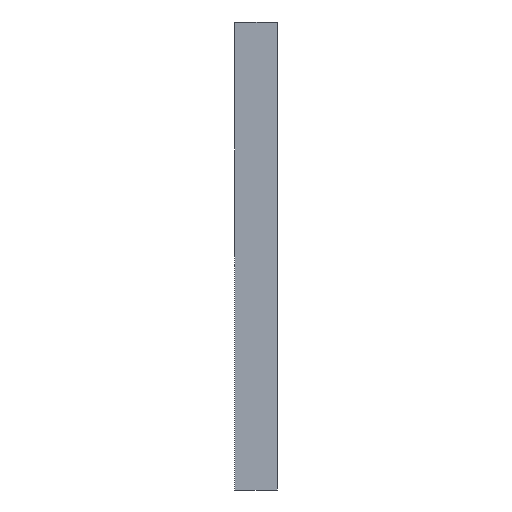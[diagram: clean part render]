
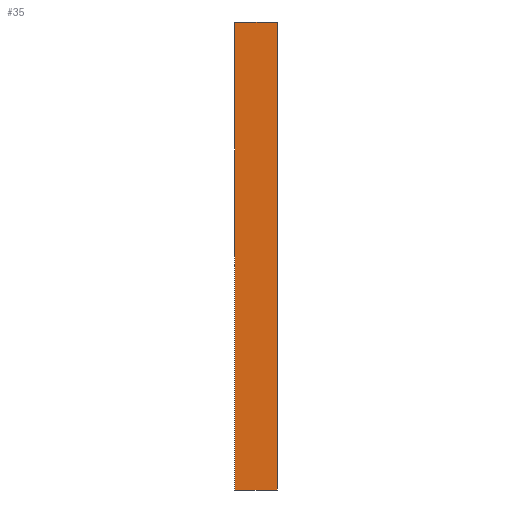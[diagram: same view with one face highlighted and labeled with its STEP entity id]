
A CAD part, left-side view. The second image highlights one B-rep face of the part: STEP entity #35.
In plain terms, the highlighted planar face has unit normal (-1, 0, 0).
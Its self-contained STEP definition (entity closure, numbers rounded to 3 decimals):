
#35 = ADVANCED_FACE('',(#36),#50,.T.);
#36 = FACE_BOUND('',#37,.T.);
#37 = EDGE_LOOP('',(#38,#73,#101,#129));
#38 = ORIENTED_EDGE('',*,*,#39,.T.);
#39 = EDGE_CURVE('',#40,#42,#44,.T.);
#40 = VERTEX_POINT('',#41);
#41 = CARTESIAN_POINT('',(-18.4,-10.9,0.));
#42 = VERTEX_POINT('',#43);
#43 = CARTESIAN_POINT('',(-18.4,-10.9,2.));
#44 = SURFACE_CURVE('',#45,(#49,#61),.PCURVE_S1.);
#45 = LINE('',#46,#47);
#46 = CARTESIAN_POINT('',(-18.4,-10.9,0.));
#47 = VECTOR('',#48,1.);
#48 = DIRECTION('',(0.,0.,1.));
#49 = PCURVE('',#50,#55);
#50 = PLANE('',#51);
#51 = AXIS2_PLACEMENT_3D('',#52,#53,#54);
#52 = CARTESIAN_POINT('',(-18.4,-10.9,0.));
#53 = DIRECTION('',(-1.,-0.,0.));
#54 = DIRECTION('',(-0.,1.,0.));
#55 = DEFINITIONAL_REPRESENTATION('',(#56),#60);
#56 = LINE('',#57,#58);
#57 = CARTESIAN_POINT('',(0.,0.));
#58 = VECTOR('',#59,1.);
#59 = DIRECTION('',(0.,-1.));
#60 = ( GEOMETRIC_REPRESENTATION_CONTEXT(2) 
PARAMETRIC_REPRESENTATION_CONTEXT() REPRESENTATION_CONTEXT('2D SPACE',''
  ) );
#61 = PCURVE('',#62,#67);
#62 = PLANE('',#63);
#63 = AXIS2_PLACEMENT_3D('',#64,#65,#66);
#64 = CARTESIAN_POINT('',(-18.4,-10.9,0.));
#65 = DIRECTION('',(-0.,1.,0.));
#66 = DIRECTION('',(1.,0.,-0.));
#67 = DEFINITIONAL_REPRESENTATION('',(#68),#72);
#68 = LINE('',#69,#70);
#69 = CARTESIAN_POINT('',(0.,0.));
#70 = VECTOR('',#71,1.);
#71 = DIRECTION('',(0.,-1.));
#72 = ( GEOMETRIC_REPRESENTATION_CONTEXT(2) 
PARAMETRIC_REPRESENTATION_CONTEXT() REPRESENTATION_CONTEXT('2D SPACE',''
  ) );
#73 = ORIENTED_EDGE('',*,*,#74,.T.);
#74 = EDGE_CURVE('',#42,#75,#77,.T.);
#75 = VERTEX_POINT('',#76);
#76 = CARTESIAN_POINT('',(-18.4,10.9,2.));
#77 = SURFACE_CURVE('',#78,(#82,#89),.PCURVE_S1.);
#78 = LINE('',#79,#80);
#79 = CARTESIAN_POINT('',(-18.4,0.,2.));
#80 = VECTOR('',#81,1.);
#81 = DIRECTION('',(-0.,1.,0.));
#82 = PCURVE('',#50,#83);
#83 = DEFINITIONAL_REPRESENTATION('',(#84),#88);
#84 = LINE('',#85,#86);
#85 = CARTESIAN_POINT('',(10.9,-2.));
#86 = VECTOR('',#87,1.);
#87 = DIRECTION('',(1.,0.));
#88 = ( GEOMETRIC_REPRESENTATION_CONTEXT(2) 
PARAMETRIC_REPRESENTATION_CONTEXT() REPRESENTATION_CONTEXT('2D SPACE',''
  ) );
#89 = PCURVE('',#90,#95);
#90 = PLANE('',#91);
#91 = AXIS2_PLACEMENT_3D('',#92,#93,#94);
#92 = CARTESIAN_POINT('',(0.,0.,2.));
#93 = DIRECTION('',(0.,0.,1.));
#94 = DIRECTION('',(1.,0.,-0.));
#95 = DEFINITIONAL_REPRESENTATION('',(#96),#100);
#96 = LINE('',#97,#98);
#97 = CARTESIAN_POINT('',(-18.4,0.));
#98 = VECTOR('',#99,1.);
#99 = DIRECTION('',(0.,1.));
#100 = ( GEOMETRIC_REPRESENTATION_CONTEXT(2) 
PARAMETRIC_REPRESENTATION_CONTEXT() REPRESENTATION_CONTEXT('2D SPACE',''
  ) );
#101 = ORIENTED_EDGE('',*,*,#102,.F.);
#102 = EDGE_CURVE('',#103,#75,#105,.T.);
#103 = VERTEX_POINT('',#104);
#104 = CARTESIAN_POINT('',(-18.4,10.9,0.));
#105 = SURFACE_CURVE('',#106,(#110,#117),.PCURVE_S1.);
#106 = LINE('',#107,#108);
#107 = CARTESIAN_POINT('',(-18.4,10.9,0.));
#108 = VECTOR('',#109,1.);
#109 = DIRECTION('',(0.,0.,1.));
#110 = PCURVE('',#50,#111);
#111 = DEFINITIONAL_REPRESENTATION('',(#112),#116);
#112 = LINE('',#113,#114);
#113 = CARTESIAN_POINT('',(21.8,0.));
#114 = VECTOR('',#115,1.);
#115 = DIRECTION('',(0.,-1.));
#116 = ( GEOMETRIC_REPRESENTATION_CONTEXT(2) 
PARAMETRIC_REPRESENTATION_CONTEXT() REPRESENTATION_CONTEXT('2D SPACE',''
  ) );
#117 = PCURVE('',#118,#123);
#118 = PLANE('',#119);
#119 = AXIS2_PLACEMENT_3D('',#120,#121,#122);
#120 = CARTESIAN_POINT('',(-18.4,10.9,0.));
#121 = DIRECTION('',(-0.,1.,0.));
#122 = DIRECTION('',(1.,0.,-0.));
#123 = DEFINITIONAL_REPRESENTATION('',(#124),#128);
#124 = LINE('',#125,#126);
#125 = CARTESIAN_POINT('',(0.,0.));
#126 = VECTOR('',#127,1.);
#127 = DIRECTION('',(0.,-1.));
#128 = ( GEOMETRIC_REPRESENTATION_CONTEXT(2) 
PARAMETRIC_REPRESENTATION_CONTEXT() REPRESENTATION_CONTEXT('2D SPACE',''
  ) );
#129 = ORIENTED_EDGE('',*,*,#130,.F.);
#130 = EDGE_CURVE('',#40,#103,#131,.T.);
#131 = SURFACE_CURVE('',#132,(#136,#143),.PCURVE_S1.);
#132 = LINE('',#133,#134);
#133 = CARTESIAN_POINT('',(-18.4,0.,0.));
#134 = VECTOR('',#135,1.);
#135 = DIRECTION('',(-0.,1.,0.));
#136 = PCURVE('',#50,#137);
#137 = DEFINITIONAL_REPRESENTATION('',(#138),#142);
#138 = LINE('',#139,#140);
#139 = CARTESIAN_POINT('',(10.9,0.));
#140 = VECTOR('',#141,1.);
#141 = DIRECTION('',(1.,0.));
#142 = ( GEOMETRIC_REPRESENTATION_CONTEXT(2) 
PARAMETRIC_REPRESENTATION_CONTEXT() REPRESENTATION_CONTEXT('2D SPACE',''
  ) );
#143 = PCURVE('',#144,#149);
#144 = PLANE('',#145);
#145 = AXIS2_PLACEMENT_3D('',#146,#147,#148);
#146 = CARTESIAN_POINT('',(0.,0.,0.));
#147 = DIRECTION('',(0.,0.,1.));
#148 = DIRECTION('',(1.,0.,-0.));
#149 = DEFINITIONAL_REPRESENTATION('',(#150),#154);
#150 = LINE('',#151,#152);
#151 = CARTESIAN_POINT('',(-18.4,0.));
#152 = VECTOR('',#153,1.);
#153 = DIRECTION('',(0.,1.));
#154 = ( GEOMETRIC_REPRESENTATION_CONTEXT(2) 
PARAMETRIC_REPRESENTATION_CONTEXT() REPRESENTATION_CONTEXT('2D SPACE',''
  ) );
